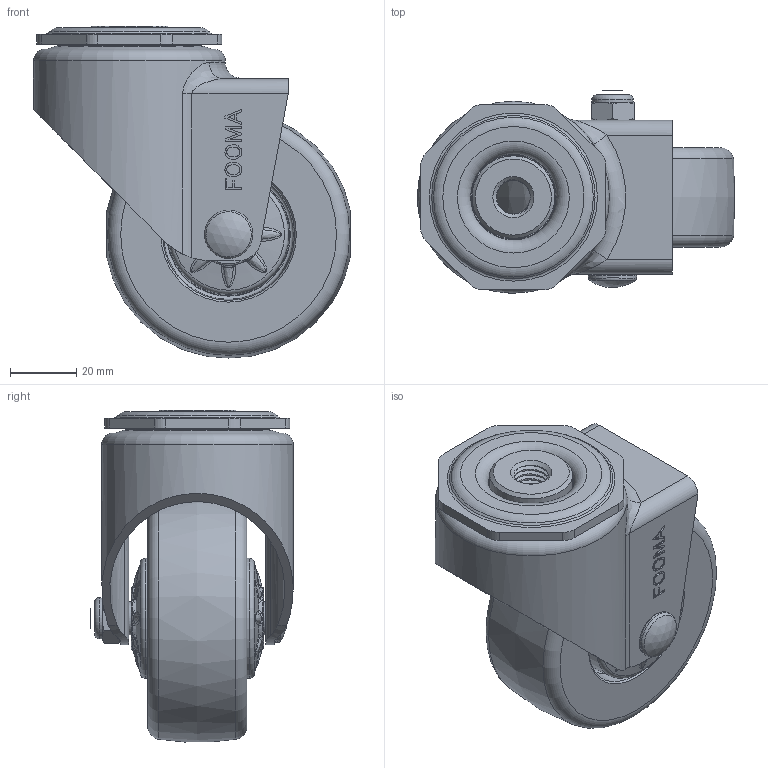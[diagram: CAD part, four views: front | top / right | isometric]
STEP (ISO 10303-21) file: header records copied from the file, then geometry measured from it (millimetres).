
FILE_DESCRIPTION(/* description */ (''),/* implementation_level */ '2;1');
FILE_NAME(/* name */ 'GAPC-75-ASS-HUD-PMTAP v4.step',/* time_stamp */ '2024-05-07T16:47:10+09:00',/* author */ (''),/* organization */ (''),/* preprocessor_version */ 'ST-DEVELOPER v20',/* originating_system */ 'Autodesk Translation Framework v12.20.1.177',/* authorisation */ '');
FILE_SCHEMA (('AUTOMOTIVE_DESIGN { 1 0 10303 214 3 1 1 }'));
Length unit declared in the file: millimetre
Products named in the file (1): GAPC-75-ASS-HUD-PMTAP
Bounding box: 95.87 x 61.25 x 100.4 mm (x, y, z)
Volume: 187444.1 mm3; surface area: 54062.5 mm2
Topology: 1 solids, 1 shells, 459 faces, 1189 edges, 770 vertices
Faces by surface type: bspline 158, plane 147, cylinder 62, cone 56, torus 35, sphere 1
Full cylindrical faces by diameter (mm): 8 x3, 10 x2, 10.274 x7, 12.226 x6, 12.5 x1, 14.6 x1, 15.5 x1, 24.379 x2, 25 x1, 40.807 x2, 41 x1, 53 x1, 58 x1
Entity records: 24088 total; most frequent: CARTESIAN_POINT 13437, ORIENTED_EDGE 2378, DIRECTION 1688, EDGE_CURVE 1189, VERTEX_POINT 770, AXIS2_PLACEMENT_3D 627, EDGE_LOOP 509, FACE_OUTER_BOUND 459
